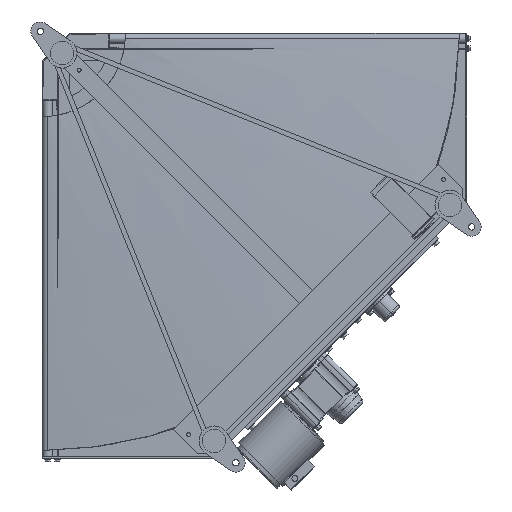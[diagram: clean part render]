
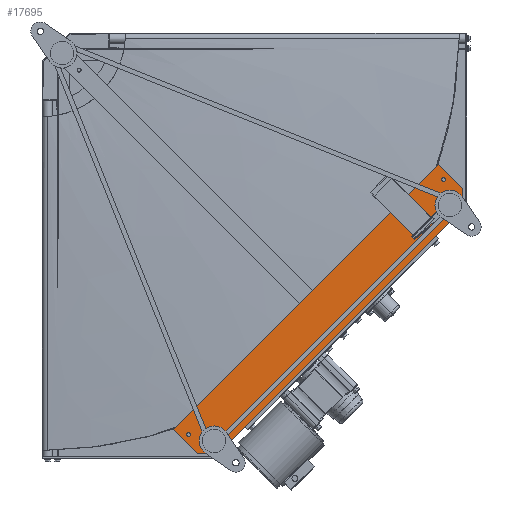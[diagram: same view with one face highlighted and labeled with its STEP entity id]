
A CAD part, front view. The second image highlights one B-rep face of the part: STEP entity #17695.
In plain terms, the highlighted planar face has unit normal (0, -1, 0).
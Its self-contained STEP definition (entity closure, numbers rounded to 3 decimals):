
#1066 = CARTESIAN_POINT ( 'NONE',  ( 856.66, -167.5, -358.15 ) ) ;
#1679 = CARTESIAN_POINT ( 'NONE',  ( 358.15, -167.5, -856.66 ) ) ;
#1768 = CARTESIAN_POINT ( 'NONE',  ( 0., -167.5, 0. ) ) ;
#2164 = DIRECTION ( 'NONE',  ( -1., 0., 0. ) ) ;
#3144 = EDGE_LOOP ( 'NONE', ( #32264, #36860, #22593, #25836, #38402, #4501 ) ) ;
#3244 = FACE_OUTER_BOUND ( 'NONE', #3144, .T. ) ;
#4151 = EDGE_CURVE ( 'NONE', #43717, #32799, #11651, .T. ) ;
#4501 = ORIENTED_EDGE ( 'NONE', *, *, #4151, .F. ) ;
#5419 = CARTESIAN_POINT ( 'NONE',  ( 315.723, -167.5, -856.66 ) ) ;
#6060 = VERTEX_POINT ( 'NONE', #24486 ) ;
#7171 = EDGE_CURVE ( 'NONE', #27258, #43717, #41524, .T. ) ;
#10284 = CARTESIAN_POINT ( 'NONE',  ( 266.226, -167.5, -807.162 ) ) ;
#10337 = VERTEX_POINT ( 'NONE', #10284 ) ;
#10629 = DIRECTION ( 'NONE',  ( 0., 0., -1. ) ) ;
#11431 = AXIS2_PLACEMENT_3D ( 'NONE', #1768, #18677, #11872 ) ;
#11651 = LINE ( 'NONE', #15015, #27018 ) ;
#11872 = DIRECTION ( 'NONE',  ( 0., 0., 1. ) ) ;
#11947 = EDGE_CURVE ( 'NONE', #32799, #6060, #31221, .T. ) ;
#13852 = DIRECTION ( 'NONE',  ( 0.707, 0., -0.707 ) ) ;
#15015 = CARTESIAN_POINT ( 'NONE',  ( 358.15, -167.5, -856.66 ) ) ;
#16898 = VECTOR ( 'NONE', #20530, 1000. ) ;
#17242 = CARTESIAN_POINT ( 'NONE',  ( 807.162, -167.5, -266.226 ) ) ;
#17334 = VECTOR ( 'NONE', #13852, 1000. ) ;
#17530 = DIRECTION ( 'NONE',  ( -0.707, 0., 0.707 ) ) ;
#17695 = ADVANCED_FACE ( 'NONE', ( #3244 ), #31856, .F. ) ;
#18677 = DIRECTION ( 'NONE',  ( 0., 1., 0. ) ) ;
#18989 = VERTEX_POINT ( 'NONE', #30989 ) ;
#19528 = LINE ( 'NONE', #30468, #16898 ) ;
#20092 = VECTOR ( 'NONE', #2164, 1000. ) ;
#20530 = DIRECTION ( 'NONE',  ( 0.707, 0., 0.707 ) ) ;
#20955 = VECTOR ( 'NONE', #10629, 1000. ) ;
#22593 = ORIENTED_EDGE ( 'NONE', *, *, #38632, .F. ) ;
#24486 = CARTESIAN_POINT ( 'NONE',  ( 315.723, -167.5, -856.66 ) ) ;
#25541 = EDGE_CURVE ( 'NONE', #18989, #27258, #25862, .T. ) ;
#25836 = ORIENTED_EDGE ( 'NONE', *, *, #35557, .F. ) ;
#25862 = LINE ( 'NONE', #17242, #17334 ) ;
#27018 = VECTOR ( 'NONE', #35461, 1000. ) ;
#27258 = VERTEX_POINT ( 'NONE', #35471 ) ;
#30468 = CARTESIAN_POINT ( 'NONE',  ( 266.226, -167.5, -807.162 ) ) ;
#30985 = VECTOR ( 'NONE', #17530, 1000. ) ;
#30989 = CARTESIAN_POINT ( 'NONE',  ( 807.162, -167.5, -266.226 ) ) ;
#31221 = LINE ( 'NONE', #5419, #20092 ) ;
#31856 = PLANE ( 'NONE',  #11431 ) ;
#32264 = ORIENTED_EDGE ( 'NONE', *, *, #7171, .F. ) ;
#32799 = VERTEX_POINT ( 'NONE', #1679 ) ;
#33114 = LINE ( 'NONE', #34293, #30985 ) ;
#34293 = CARTESIAN_POINT ( 'NONE',  ( 266.226, -167.5, -807.162 ) ) ;
#35461 = DIRECTION ( 'NONE',  ( -0.707, 0., -0.707 ) ) ;
#35471 = CARTESIAN_POINT ( 'NONE',  ( 856.66, -167.5, -315.723 ) ) ;
#35557 = EDGE_CURVE ( 'NONE', #6060, #10337, #33114, .T. ) ;
#36860 = ORIENTED_EDGE ( 'NONE', *, *, #25541, .F. ) ;
#38402 = ORIENTED_EDGE ( 'NONE', *, *, #11947, .F. ) ;
#38500 = CARTESIAN_POINT ( 'NONE',  ( 856.66, -167.5, -358.15 ) ) ;
#38632 = EDGE_CURVE ( 'NONE', #10337, #18989, #19528, .T. ) ;
#41524 = LINE ( 'NONE', #1066, #20955 ) ;
#43717 = VERTEX_POINT ( 'NONE', #38500 ) ;
